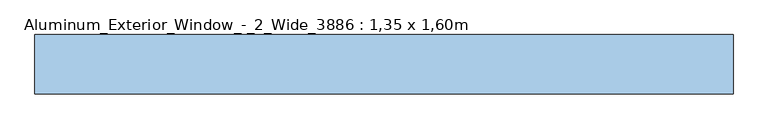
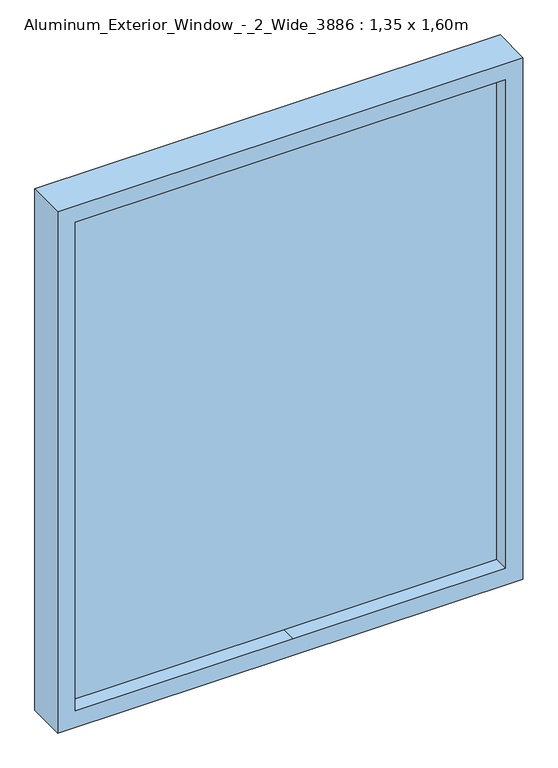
"""IFC4 building model written with IfcOpenShell, lengths in millimetres: window geometry, Aluminum_Exterior_Window_-_2_Wide_3886 : 1,35 x 1,60m."""

import ifcopenshell
import ifcopenshell.guid

model = None  # the IFC model being written
_history = None  # IfcOwnerHistory: only IFC2X3 demands one
_inside = {}  # id of a spatial element -> (the spatial element, [elements in it])
_under = {}  # id of a project, library or spatial element -> (it, [spatial elements below it])
_declared = {}  # id of a project -> (the project, [libraries it declares])
_typed = {}  # id of a type object -> (the type object, [elements of that type])
_made_of = {}  # id of a material, layer set ... -> (it, [elements and type objects made of it])


def new_model(schema):
    """Start an empty IFC model of exactly this schema.

    Asked for "IFC4X3", IfcOpenShell would pick the latest addendum, in which some entities
    have other attributes; the version numbers below select the first issue.
    IFC2X3 requires an IfcOwnerHistory on every rooted entity: one is made here for all.
    """
    global model, _history
    if schema == "IFC4X3":
        model = ifcopenshell.file(schema_version=(4, 3, 0, 0))
    else:
        model = ifcopenshell.file(schema=schema)
    _inside.clear()
    _under.clear()
    _declared.clear()
    _typed.clear()
    _made_of.clear()
    _history = None
    if model.schema == "IFC2X3":
        org = make("IfcOrganization", Name="unknown")
        user = make(
            "IfcPersonAndOrganization",
            ThePerson=make("IfcPerson", FamilyName="unknown"),
            TheOrganization=org,
        )
        app = make(
            "IfcApplication",
            ApplicationDeveloper=org,
            Version="unknown",
            ApplicationFullName="unknown",
            ApplicationIdentifier="unknown",
        )
        _history = make(
            "IfcOwnerHistory",
            OwningUser=user,
            OwningApplication=app,
            ChangeAction="ADDED",
            CreationDate=0,
        )
    return model


def make(cls, **values):
    """One entity of the class cls with the attributes given. An attribute that is None is left unset."""
    return model.create_entity(
        cls, **{name: value for name, value in values.items() if value is not None}
    )


def rooted(cls, **values):
    """An entity with a GlobalId (a new one), such as an element, a storey or a relation."""
    return make(cls, GlobalId=ifcopenshell.guid.new(), OwnerHistory=_history, **values)


def si_unit(unit_type, name, prefix=None):
    """IfcSIUnit, for example si_unit("LENGTHUNIT", "METRE", prefix="MILLI")."""
    return make("IfcSIUnit", UnitType=unit_type, Prefix=prefix, Name=name)


def assignment(units):
    """IfcUnitAssignment: the units of a project."""
    return None if units is None else make("IfcUnitAssignment", Units=units)


def point(xyz):
    """IfcCartesianPoint."""
    return None if xyz is None else make("IfcCartesianPoint", Coordinates=xyz)


def direction(xyz):
    """IfcDirection."""
    return None if xyz is None else make("IfcDirection", DirectionRatios=xyz)


def frame(location, z_axis=None, x_axis=None):
    """IfcAxis2Placement3D, a coordinate frame: its origin and axes. An axis left out is left unset."""
    return make(
        "IfcAxis2Placement3D",
        Location=point(location),
        Axis=direction(z_axis),
        RefDirection=direction(x_axis),
    )


def origin():
    """The frame at (0, 0, 0) with its axes left unset."""
    return frame((0.0, 0.0, 0.0))


def place(relative_to, where):
    """IfcLocalPlacement: puts the frame where relative to a parent placement (None: the world)."""
    return make(
        "IfcLocalPlacement", PlacementRelTo=relative_to, RelativePlacement=where
    )


def context(
    kind, dimensions, precision=None, world=None, true_north=None, identifier=None
):
    """IfcGeometricRepresentationContext, for example the 3D "Model" context."""
    return make(
        "IfcGeometricRepresentationContext",
        ContextIdentifier=identifier,
        ContextType=kind,
        CoordinateSpaceDimension=dimensions,
        Precision=precision,
        WorldCoordinateSystem=world,
        TrueNorth=true_north,
    )


def project(units=None, contexts=None):
    """IfcProject with its units and contexts."""
    return rooted(
        "IfcProject",
        Name="project",
        RepresentationContexts=contexts,
        UnitsInContext=assignment(units),
    )


def spatial(cls, under=None, at=None, **own):
    """A site, building, storey or space (cls), placed at a placement, below another one or the project."""
    s = rooted(cls, ObjectPlacement=at, **own)
    if under is not None:
        _under.setdefault(under.id(), (under, []))[1].append(s)
    return s


def polyline(points):
    """IfcPolyline through the points."""
    return make("IfcPolyline", Points=[point(p) for p in points])


def outline(outer, holes=None, kind="AREA"):
    """IfcArbitraryClosedProfileDef: a profile drawn as a closed curve; with holes, ...WithVoids."""
    if holes is None:
        return make("IfcArbitraryClosedProfileDef", ProfileType=kind, OuterCurve=outer)
    return make(
        "IfcArbitraryProfileDefWithVoids",
        ProfileType=kind,
        OuterCurve=outer,
        InnerCurves=holes,
    )


def extrude(swept, where, along, depth):
    """IfcExtrudedAreaSolid: the profile swept, set in the frame where, extruded along a direction by depth."""
    return make(
        "IfcExtrudedAreaSolid",
        SweptArea=swept,
        Position=where,
        ExtrudedDirection=direction(along),
        Depth=depth,
    )


def shape(context_of_items, identifier, shape_type, items):
    """IfcShapeRepresentation: the items that make up one representation, for example the "Body"."""
    return make(
        "IfcShapeRepresentation",
        ContextOfItems=context_of_items,
        RepresentationIdentifier=identifier,
        RepresentationType=shape_type,
        Items=items,
    )


def source(mapping_origin, context_of_items, identifier, shape_type, items):
    """IfcRepresentationMap: a shape defined once, which mapped items show again and again."""
    return make(
        "IfcRepresentationMap",
        MappingOrigin=mapping_origin,
        MappedRepresentation=shape(context_of_items, identifier, shape_type, items),
    )


def transform(
    local_origin,
    x_axis=None,
    y_axis=None,
    z_axis=None,
    scale=None,
    scale2=None,
    scale3=None,
    uniform=True,
):
    """IfcCartesianTransformationOperator3D, or its non-uniform kind. x_axis, y_axis, z_axis: its Axis1, 2, 3."""
    if uniform:
        return make(
            "IfcCartesianTransformationOperator3D",
            Axis1=direction(x_axis),
            Axis2=direction(y_axis),
            LocalOrigin=point(local_origin),
            Scale=scale,
            Axis3=direction(z_axis),
        )
    return make(
        "IfcCartesianTransformationOperator3DnonUniform",
        Axis1=direction(x_axis),
        Axis2=direction(y_axis),
        LocalOrigin=point(local_origin),
        Scale=scale,
        Axis3=direction(z_axis),
        Scale2=scale2,
        Scale3=scale3,
    )


def mapped(mapping_source, mapping_target):
    """IfcMappedItem: shows the shape of a source again, moved by a transform."""
    return make(
        "IfcMappedItem", MappingSource=mapping_source, MappingTarget=mapping_target
    )


def made_of(thing, what):
    """Note that an element or type object is made of a material, layer set ...; save() writes the relation."""
    if what is not None:
        _made_of.setdefault(what.id(), (what, []))[1].append(thing)
    return thing


def element(
    cls,
    number,
    at=None,
    inside=None,
    cuts=None,
    type_object=None,
    material=None,
    context=None,
    identifier="Body",
    shape_type=None,
    held_by="IfcProductDefinitionShape",
    body=None,
    shapes=None,
    **own,
):
    """One element of the class cls, such as IfcWall. Its Tag is "e" and its number.

    at: its placement. inside: the storey or other place that contains it. cuts: it is an
    opening in that element (IfcRelVoidsElement). A single representation is given by context,
    identifier, shape_type and body (its items); several are given by shapes. held_by: the class
    of the entity that holds the representations. save() writes the other relations.
    """
    e = rooted(cls, Tag="e%d" % number, ObjectPlacement=at, **own)
    if body is not None:
        shapes = [shape(context, identifier, shape_type, body)]
    if shapes is not None:
        e.Representation = make(held_by, Representations=shapes)
    if inside is not None:
        _inside.setdefault(inside.id(), (inside, []))[1].append(e)
    if cuts is not None:
        rooted(
            "IfcRelVoidsElement", RelatingBuildingElement=cuts, RelatedOpeningElement=e
        )
    if type_object is not None:
        _typed.setdefault(type_object.id(), (type_object, []))[1].append(e)
    return made_of(e, material)


def aggregate(whole, parts):
    """IfcRelAggregates: a whole, such as a stair, and the parts it consists of."""
    return rooted("IfcRelAggregates", RelatingObject=whole, RelatedObjects=parts)


def save(model, path):
    """Write the relations noted so far, then the file.

    IfcRelAggregates (storeys below a building ...), IfcRelContainedInSpatialStructure (elements
    in a storey), IfcRelDefinesByType, IfcRelAssociatesMaterial and IfcRelDeclares: one each for
    every whole, place, type object, material and project.
    """
    for whole, parts in _under.values():
        aggregate(whole, parts)
    for where, things in _inside.values():
        rooted(
            "IfcRelContainedInSpatialStructure",
            RelatedElements=things,
            RelatingStructure=where,
        )
    for kind, things in _typed.values():
        rooted("IfcRelDefinesByType", RelatedObjects=things, RelatingType=kind)
    for what, things in _made_of.values():
        rooted("IfcRelAssociatesMaterial", RelatedObjects=things, RelatingMaterial=what)
    for by, libraries in _declared.values():
        rooted("IfcRelDeclares", RelatingContext=by, RelatedDefinitions=libraries)
    model.write(path)


def aluminum_exterior_window_2_wide_3886_1_35_x_1_60m_f8f21254(model_context):
    return source(origin(), model_context, "Body", "SweptSolid", [
        extrude(outline(polyline([(2616.0, -1371.6), (1016.0, -1371.6), (1016.0, -21.6), (2616.0, -21.6), (2616.0, -1371.6)]), holes=[polyline([(2565.2, -722.0), (2565.2, -72.4), (1066.8, -72.4), (1066.8, -688.8808837), (1066.8, -1320.8), (2565.2, -1320.8), (2565.2, -722.0)])]), frame((0.0, -38.1424754, 0.0), z_axis=(0.0, 1.0, 0.0), x_axis=(0.0, 0.0, 1.0)), (0.0, 0.0, 1.0), 114.3),
        extrude(outline(polyline([(2565.2, -722.0), (2565.2, -1320.8), (1066.8, -1320.8), (1066.8, -695.891469), (1066.8, -72.4), (2565.2, -72.4), (2565.2, -722.0)])), frame((0.0, 6.3075246, 0.0), z_axis=(0.0, 1.0, 0.0), x_axis=(0.0, 0.0, 1.0)), (0.0, 0.0, 1.0), 25.4),
    ])


if __name__ == "__main__":
    model = new_model("IFC4")
    model_context = context("Model", 3, world=origin())
    ifc_project = project(units=[si_unit("LENGTHUNIT", "METRE", prefix="MILLI")], contexts=[model_context])
    site = spatial("IfcSite", under=ifc_project)
    building = spatial("IfcBuilding", under=site)
    placement = place(None, origin())
    aluminum_exterior_window_2_wide_3886_1_35_x_1_60m_shape = aluminum_exterior_window_2_wide_3886_1_35_x_1_60m_f8f21254(model_context)
    element("IfcWindow", 1, ObjectType="Aluminum_Exterior_Window_-_2_Wide_3886 : 1,35 x 1,60m", at=placement, inside=building, context=model_context, shape_type="MappedRepresentation", body=[
        mapped(aluminum_exterior_window_2_wide_3886_1_35_x_1_60m_shape, transform((0.0, 0.0, 0.0), x_axis=(1.0, 0.0, 0.0), y_axis=(0.0, 1.0, 0.0), z_axis=(0.0, 0.0, 1.0))),
    ])
    save(model, "model.ifc")
